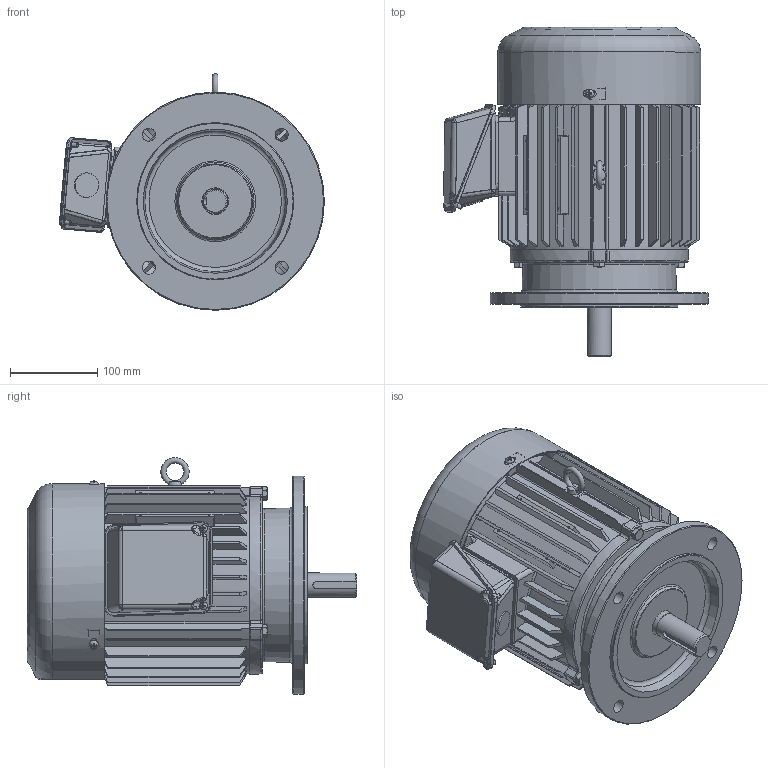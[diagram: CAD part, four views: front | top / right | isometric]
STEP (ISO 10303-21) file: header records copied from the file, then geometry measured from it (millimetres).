
FILE_DESCRIPTION(/* description */ ('Unknown'),/* implementation_level */ '2;1');
FILE_NAME(/* name */ '1-SMA-33831_외형도(194DIA)',/* time_stamp */ '2026-07-24T08:47:13+09:00',/* author */ ('Unknown'),/* organization */ ('Unknown'),/* preprocessor_version */ 'ST-DEVELOPER v16',/* originating_system */ 'DEX',/* authorisation */ $);
FILE_SCHEMA (('AUTOMOTIVE_DESIGN {1 0 10303 214 3 1 1}'));
Products named in the file (18): 1-SMA-33831_寇屈档(194DIification_assignment; 2-SMA-30879_FRAME(194DIA); 3-SMA-30875_擅粽塭鰍(194D; 5-SMA-30880_SHAFT(194DIA); 6-SMA-31243_FAN(194DIA); 7-SMA-30644_FAN COVER(194DIA); I獐お M8x1.25x15.; 幫陝獐お M8x1.25x.25x30L; 4-SMA-30872N_菴粽塭鰍(194DributeEx; 菅斬 褊濠 M6x1x; 6306ZZ; 6205ZZ; 2.2~3.7kW(3~5HP)_攪嘐割 夢蝶(178, 194; T-BOX 憶っ(178~194DIA; 8-SMA-33042_T-BOX(鼻)(194DIA); 9-SMA-33043_T-BOX(ж)(194DIA); T-BOX 歜衛 馨檜綰斜楠萄(178~; 褊濠 菅斬 該葬 獐お M5x
Assembly tree (25 placements, depth 3):
  1-SMA-33831_寇屈档(194DIification_assignment
    2-SMA-30879_FRAME(194DIA)
    3-SMA-30875_擅粽塭鰍(194D
    5-SMA-30880_SHAFT(194DIA)
    6-SMA-31243_FAN(194DIA)
    7-SMA-30644_FAN COVER(194DIA)
    I獐お M8x1.25x15.
    幫陝獐お M8x1.25x.25x30L  x6
    4-SMA-30872N_菴粽塭鰍(194DributeEx
    菅斬 褊濠 M6x1x  x3
    6306ZZ
    6205ZZ
    2.2~3.7kW(3~5HP)_攪嘐割 夢蝶(178, 194
      T-BOX 憶っ(178~194DIA
      8-SMA-33042_T-BOX(鼻)(194DIA)
      9-SMA-33043_T-BOX(ж)(194DIA)
      T-BOX 歜衛 馨檜綰斜楠萄(178~
      褊濠 菅斬 該葬 獐お M5x  x2
Bounding box: 303.22 x 377 x 271.1 mm (x, y, z)
Volume: 2587073.1 mm3; surface area: 1091701.4 mm2
Topology: 46 solids, 46 shells, 1776 faces, 4409 edges, 2772 vertices
Faces by surface type: plane 592, cylinder 537, cone 322, torus 166, bspline 118, sphere 41
Full cylindrical faces by diameter (mm): 2.2 x4, 4.134 x2, 4.917 x6, 5 x2, 6 x8, 6.6 x4, 6.647 x13, 7 x2, 8 x14, 9 x2, 10 x6, 15 x4, 22 x1, 24.8 x1, 25 x2, 25.6 x1, 28 x3, 29.8 x1, 30 x2, 30.6 x1, 31.1 x1, 32.714 x2, 33.114 x2, 34 x1, 40 x4, 42 x2, 42.4 x2, 43.886 x2, 44.286 x2, 52 x2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
Entity records: 64569 total; most frequent: CARTESIAN_POINT 23679, DIRECTION 7596, ORIENTED_EDGE 7458, EDGE_CURVE 3729, AXIS2_PLACEMENT_3D 3156, VERTEX_POINT 2479, FACE_BOUND 2034, EDGE_LOOP 2007
